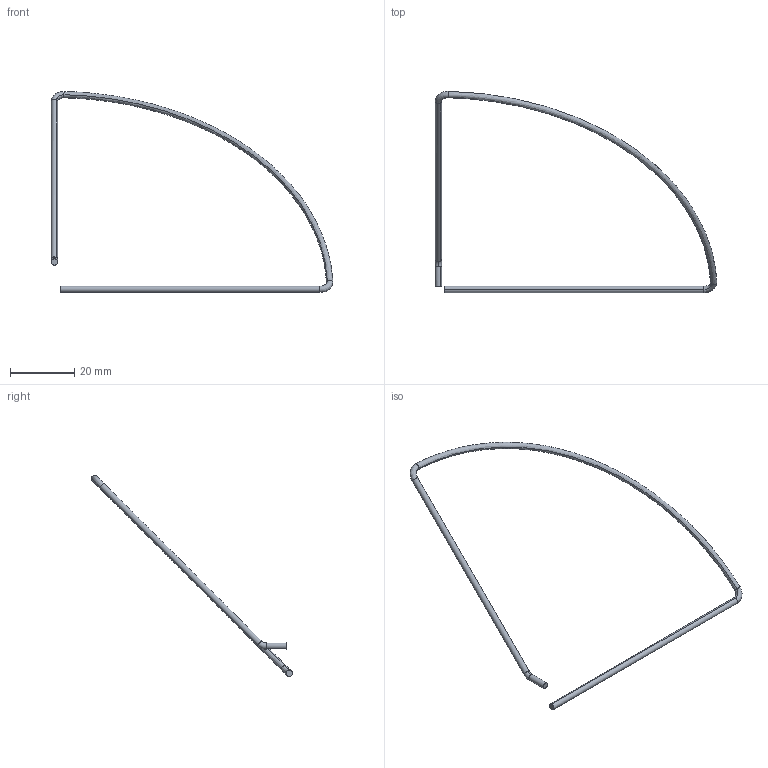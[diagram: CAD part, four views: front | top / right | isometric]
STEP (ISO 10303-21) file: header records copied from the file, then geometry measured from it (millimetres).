
FILE_DESCRIPTION(('STEP AP214'),'1');
FILE_NAME('.stp','2024-12-04T05:17:05',('user072'),(' '),'Spatial InterOp 3D','CST ACIS InterOp Converter 2021',' ');
FILE_SCHEMA(('AUTOMOTIVE_DESIGN { 1 0 10303 214 1 1 1 1 }'));
Length unit declared in the file: millimetre
Products named in the file (1): component1|wire1
Bounding box: 87.79 x 62.66 x 62.66 mm (x, y, z)
Volume: 934.3 mm3; surface area: 1875.1 mm2
Topology: 1 solids, 1 shells, 16 faces, 38 edges, 24 vertices
Faces by surface type: bspline 6, cylinder 6, torus 2, plane 2
Entity records: 3079 total; most frequent: CARTESIAN_POINT 2711, ORIENTED_EDGE 76, DIRECTION 64, EDGE_CURVE 38, AXIS2_PLACEMENT_3D 29, VERTEX_POINT 24, CIRCLE 18, ADVANCED_FACE 16
